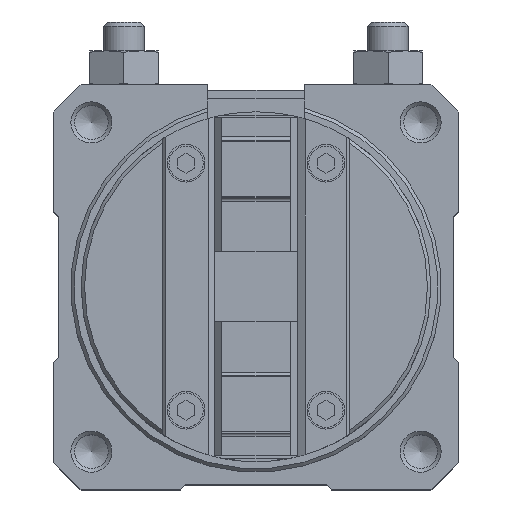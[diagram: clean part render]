
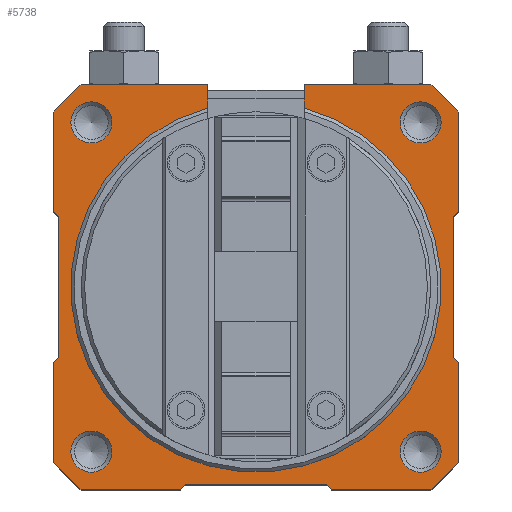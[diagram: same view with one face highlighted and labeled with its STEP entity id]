
A CAD part, top view. The second image highlights one B-rep face of the part: STEP entity #5738.
In plain terms, the highlighted planar face has unit normal (0, 0, 1).
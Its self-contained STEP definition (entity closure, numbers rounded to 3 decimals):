
#276=LINE('',#8458,#792);
#277=LINE('',#8460,#793);
#278=LINE('',#8464,#794);
#279=LINE('',#8466,#795);
#280=LINE('',#8468,#796);
#281=LINE('',#8470,#797);
#282=LINE('',#8472,#798);
#283=LINE('',#8476,#799);
#284=LINE('',#8478,#800);
#285=LINE('',#8480,#801);
#286=LINE('',#8482,#802);
#287=LINE('',#8484,#803);
#288=LINE('',#8488,#804);
#289=LINE('',#8490,#805);
#290=LINE('',#8492,#806);
#291=LINE('',#8494,#807);
#292=LINE('',#8496,#808);
#293=LINE('',#8500,#809);
#294=LINE('',#8502,#810);
#792=VECTOR('',#6751,1000.);
#793=VECTOR('',#6752,1000.);
#794=VECTOR('',#6755,1000.);
#795=VECTOR('',#6756,1000.);
#796=VECTOR('',#6757,1000.);
#797=VECTOR('',#6758,1000.);
#798=VECTOR('',#6759,1000.);
#799=VECTOR('',#6762,1000.);
#800=VECTOR('',#6763,1000.);
#801=VECTOR('',#6764,1000.);
#802=VECTOR('',#6765,1000.);
#803=VECTOR('',#6766,1000.);
#804=VECTOR('',#6769,1000.);
#805=VECTOR('',#6770,1000.);
#806=VECTOR('',#6771,1000.);
#807=VECTOR('',#6772,1000.);
#808=VECTOR('',#6773,1000.);
#809=VECTOR('',#6776,1000.);
#810=VECTOR('',#6777,1000.);
#1308=ORIENTED_EDGE('',*,*,#2918,.F.);
#1309=ORIENTED_EDGE('',*,*,#2919,.F.);
#1310=ORIENTED_EDGE('',*,*,#2920,.F.);
#1311=ORIENTED_EDGE('',*,*,#2921,.F.);
#1312=ORIENTED_EDGE('',*,*,#2922,.F.);
#1313=ORIENTED_EDGE('',*,*,#2923,.F.);
#1314=ORIENTED_EDGE('',*,*,#2924,.T.);
#1315=ORIENTED_EDGE('',*,*,#2925,.T.);
#1316=ORIENTED_EDGE('',*,*,#2926,.T.);
#1317=ORIENTED_EDGE('',*,*,#2927,.T.);
#1318=ORIENTED_EDGE('',*,*,#2928,.T.);
#1319=ORIENTED_EDGE('',*,*,#2929,.T.);
#1320=ORIENTED_EDGE('',*,*,#2930,.T.);
#1321=ORIENTED_EDGE('',*,*,#2931,.T.);
#1322=ORIENTED_EDGE('',*,*,#2932,.T.);
#1323=ORIENTED_EDGE('',*,*,#2933,.T.);
#1324=ORIENTED_EDGE('',*,*,#2934,.T.);
#1325=ORIENTED_EDGE('',*,*,#2935,.T.);
#1326=ORIENTED_EDGE('',*,*,#2936,.T.);
#1327=ORIENTED_EDGE('',*,*,#2937,.T.);
#1328=ORIENTED_EDGE('',*,*,#2938,.T.);
#1329=ORIENTED_EDGE('',*,*,#2939,.T.);
#1330=ORIENTED_EDGE('',*,*,#2940,.T.);
#1331=ORIENTED_EDGE('',*,*,#2941,.T.);
#1332=ORIENTED_EDGE('',*,*,#2942,.T.);
#1333=ORIENTED_EDGE('',*,*,#2943,.T.);
#1334=ORIENTED_EDGE('',*,*,#2944,.T.);
#1335=ORIENTED_EDGE('',*,*,#2945,.F.);
#2918=EDGE_CURVE('',#3723,#3723,#4301,.T.);
#2919=EDGE_CURVE('',#3724,#3724,#4302,.T.);
#2920=EDGE_CURVE('',#3725,#3725,#4303,.T.);
#2921=EDGE_CURVE('',#3726,#3726,#4304,.T.);
#2922=EDGE_CURVE('',#3727,#3728,#4305,.T.);
#2923=EDGE_CURVE('',#3729,#3727,#276,.T.);
#2924=EDGE_CURVE('',#3729,#3730,#277,.T.);
#2925=EDGE_CURVE('',#3730,#3731,#4306,.T.);
#2926=EDGE_CURVE('',#3731,#3732,#278,.T.);
#2927=EDGE_CURVE('',#3732,#3733,#279,.T.);
#2928=EDGE_CURVE('',#3733,#3734,#280,.T.);
#2929=EDGE_CURVE('',#3734,#3735,#281,.T.);
#2930=EDGE_CURVE('',#3735,#3736,#282,.T.);
#2931=EDGE_CURVE('',#3736,#3737,#4307,.T.);
#2932=EDGE_CURVE('',#3737,#3738,#283,.T.);
#2933=EDGE_CURVE('',#3738,#3739,#284,.T.);
#2934=EDGE_CURVE('',#3739,#3740,#285,.T.);
#2935=EDGE_CURVE('',#3740,#3741,#286,.T.);
#2936=EDGE_CURVE('',#3741,#3742,#287,.T.);
#2937=EDGE_CURVE('',#3742,#3743,#4308,.T.);
#2938=EDGE_CURVE('',#3743,#3744,#288,.T.);
#2939=EDGE_CURVE('',#3744,#3745,#289,.T.);
#2940=EDGE_CURVE('',#3745,#3746,#290,.T.);
#2941=EDGE_CURVE('',#3746,#3747,#291,.T.);
#2942=EDGE_CURVE('',#3747,#3748,#292,.T.);
#2943=EDGE_CURVE('',#3748,#3749,#4309,.T.);
#2944=EDGE_CURVE('',#3749,#3750,#293,.T.);
#2945=EDGE_CURVE('',#3728,#3750,#294,.T.);
#3723=VERTEX_POINT('',#8448);
#3724=VERTEX_POINT('',#8450);
#3725=VERTEX_POINT('',#8452);
#3726=VERTEX_POINT('',#8454);
#3727=VERTEX_POINT('',#8456);
#3728=VERTEX_POINT('',#8457);
#3729=VERTEX_POINT('',#8459);
#3730=VERTEX_POINT('',#8461);
#3731=VERTEX_POINT('',#8463);
#3732=VERTEX_POINT('',#8465);
#3733=VERTEX_POINT('',#8467);
#3734=VERTEX_POINT('',#8469);
#3735=VERTEX_POINT('',#8471);
#3736=VERTEX_POINT('',#8473);
#3737=VERTEX_POINT('',#8475);
#3738=VERTEX_POINT('',#8477);
#3739=VERTEX_POINT('',#8479);
#3740=VERTEX_POINT('',#8481);
#3741=VERTEX_POINT('',#8483);
#3742=VERTEX_POINT('',#8485);
#3743=VERTEX_POINT('',#8487);
#3744=VERTEX_POINT('',#8489);
#3745=VERTEX_POINT('',#8491);
#3746=VERTEX_POINT('',#8493);
#3747=VERTEX_POINT('',#8495);
#3748=VERTEX_POINT('',#8497);
#3749=VERTEX_POINT('',#8499);
#3750=VERTEX_POINT('',#8501);
#4301=CIRCLE('',#6143,3.);
#4302=CIRCLE('',#6144,3.);
#4303=CIRCLE('',#6145,3.);
#4304=CIRCLE('',#6146,3.);
#4305=CIRCLE('',#6147,27.);
#4306=CIRCLE('',#6148,39.);
#4307=CIRCLE('',#6149,39.);
#4308=CIRCLE('',#6150,39.);
#4309=CIRCLE('',#6151,39.);
#4514=EDGE_LOOP('',(#1308));
#4515=EDGE_LOOP('',(#1309));
#4516=EDGE_LOOP('',(#1310));
#4517=EDGE_LOOP('',(#1311));
#4518=EDGE_LOOP('',(#1312,#1313,#1314,#1315,#1316,#1317,#1318,#1319,#1320,
#1321,#1322,#1323,#1324,#1325,#1326,#1327,#1328,#1329,#1330,#1331,#1332,
#1333,#1334,#1335));
#5007=FACE_BOUND('',#4514,.T.);
#5008=FACE_BOUND('',#4515,.T.);
#5009=FACE_BOUND('',#4516,.T.);
#5010=FACE_BOUND('',#4517,.T.);
#5011=FACE_BOUND('',#4518,.T.);
#5516=PLANE('',#6142);
#5738=ADVANCED_FACE('',(#5007,#5008,#5009,#5010,#5011),#5516,.T.);
#6142=AXIS2_PLACEMENT_3D('',#8446,#6739,#6740);
#6143=AXIS2_PLACEMENT_3D('',#8447,#6741,#6742);
#6144=AXIS2_PLACEMENT_3D('',#8449,#6743,#6744);
#6145=AXIS2_PLACEMENT_3D('',#8451,#6745,#6746);
#6146=AXIS2_PLACEMENT_3D('',#8453,#6747,#6748);
#6147=AXIS2_PLACEMENT_3D('',#8455,#6749,#6750);
#6148=AXIS2_PLACEMENT_3D('',#8462,#6753,#6754);
#6149=AXIS2_PLACEMENT_3D('',#8474,#6760,#6761);
#6150=AXIS2_PLACEMENT_3D('',#8486,#6767,#6768);
#6151=AXIS2_PLACEMENT_3D('',#8498,#6774,#6775);
#6739=DIRECTION('',(0.,0.,1.));
#6740=DIRECTION('',(1.,0.,0.));
#6741=DIRECTION('',(0.,0.,1.));
#6742=DIRECTION('',(1.,0.,0.));
#6743=DIRECTION('',(0.,0.,1.));
#6744=DIRECTION('',(1.,0.,0.));
#6745=DIRECTION('',(0.,0.,1.));
#6746=DIRECTION('',(1.,0.,0.));
#6747=DIRECTION('',(0.,0.,1.));
#6748=DIRECTION('',(1.,0.,0.));
#6749=DIRECTION('',(0.,0.,1.));
#6750=DIRECTION('',(1.,0.,0.));
#6751=DIRECTION('',(0.,-1.,0.));
#6752=DIRECTION('',(-1.,0.,0.));
#6753=DIRECTION('',(0.,0.,1.));
#6754=DIRECTION('',(1.,0.,0.));
#6755=DIRECTION('',(0.,-1.,0.));
#6756=DIRECTION('',(0.707,-0.707,0.));
#6757=DIRECTION('',(0.,-1.,0.));
#6758=DIRECTION('',(-0.707,-0.707,0.));
#6759=DIRECTION('',(0.,-1.,0.));
#6760=DIRECTION('',(0.,0.,1.));
#6761=DIRECTION('',(1.,0.,0.));
#6762=DIRECTION('',(1.,0.,0.));
#6763=DIRECTION('',(0.707,0.707,0.));
#6764=DIRECTION('',(1.,0.,0.));
#6765=DIRECTION('',(0.707,-0.707,0.));
#6766=DIRECTION('',(1.,0.,0.));
#6767=DIRECTION('',(0.,0.,1.));
#6768=DIRECTION('',(1.,0.,0.));
#6769=DIRECTION('',(0.,1.,0.));
#6770=DIRECTION('',(-0.707,0.707,0.));
#6771=DIRECTION('',(0.,1.,0.));
#6772=DIRECTION('',(0.707,0.707,0.));
#6773=DIRECTION('',(0.,1.,0.));
#6774=DIRECTION('',(0.,0.,1.));
#6775=DIRECTION('',(1.,0.,0.));
#6776=DIRECTION('',(-1.,0.,0.));
#6777=DIRECTION('',(0.,1.,0.));
#8446=CARTESIAN_POINT('',(0.,0.,111.));
#8447=CARTESIAN_POINT('',(-24.,-24.,111.));
#8448=CARTESIAN_POINT('',(-21.,-24.,111.));
#8449=CARTESIAN_POINT('',(24.,-24.,111.));
#8450=CARTESIAN_POINT('',(27.,-24.,111.));
#8451=CARTESIAN_POINT('',(-24.,24.,111.));
#8452=CARTESIAN_POINT('',(-21.,24.,111.));
#8453=CARTESIAN_POINT('',(24.,24.,111.));
#8454=CARTESIAN_POINT('',(27.,24.,111.));
#8455=CARTESIAN_POINT('',(0.,0.,111.));
#8456=CARTESIAN_POINT('',(-7.,26.077,111.));
#8457=CARTESIAN_POINT('',(7.,26.077,111.));
#8458=CARTESIAN_POINT('',(-7.,29.5,111.));
#8459=CARTESIAN_POINT('',(-7.,29.5,111.));
#8460=CARTESIAN_POINT('',(25.51,29.5,111.));
#8461=CARTESIAN_POINT('',(-25.51,29.5,111.));
#8462=CARTESIAN_POINT('',(0.,0.,111.));
#8463=CARTESIAN_POINT('',(-29.5,25.51,111.));
#8464=CARTESIAN_POINT('',(-29.5,25.51,111.));
#8465=CARTESIAN_POINT('',(-29.5,11.,111.));
#8466=CARTESIAN_POINT('',(-29.5,11.,111.));
#8467=CARTESIAN_POINT('',(-28.75,10.25,111.));
#8468=CARTESIAN_POINT('',(-28.75,10.25,111.));
#8469=CARTESIAN_POINT('',(-28.75,-10.25,111.));
#8470=CARTESIAN_POINT('',(-28.75,-10.25,111.));
#8471=CARTESIAN_POINT('',(-29.5,-11.,111.));
#8472=CARTESIAN_POINT('',(-29.5,-11.,111.));
#8473=CARTESIAN_POINT('',(-29.5,-25.51,111.));
#8474=CARTESIAN_POINT('',(0.,0.,111.));
#8475=CARTESIAN_POINT('',(-25.51,-29.5,111.));
#8476=CARTESIAN_POINT('',(-25.51,-29.5,111.));
#8477=CARTESIAN_POINT('',(-11.,-29.5,111.));
#8478=CARTESIAN_POINT('',(-11.,-29.5,111.));
#8479=CARTESIAN_POINT('',(-10.25,-28.75,111.));
#8480=CARTESIAN_POINT('',(-10.25,-28.75,111.));
#8481=CARTESIAN_POINT('',(10.25,-28.75,111.));
#8482=CARTESIAN_POINT('',(10.25,-28.75,111.));
#8483=CARTESIAN_POINT('',(11.,-29.5,111.));
#8484=CARTESIAN_POINT('',(11.,-29.5,111.));
#8485=CARTESIAN_POINT('',(25.51,-29.5,111.));
#8486=CARTESIAN_POINT('',(0.,0.,111.));
#8487=CARTESIAN_POINT('',(29.5,-25.51,111.));
#8488=CARTESIAN_POINT('',(29.5,-25.51,111.));
#8489=CARTESIAN_POINT('',(29.5,-11.,111.));
#8490=CARTESIAN_POINT('',(29.5,-11.,111.));
#8491=CARTESIAN_POINT('',(28.75,-10.25,111.));
#8492=CARTESIAN_POINT('',(28.75,-10.25,111.));
#8493=CARTESIAN_POINT('',(28.75,10.25,111.));
#8494=CARTESIAN_POINT('',(28.75,10.25,111.));
#8495=CARTESIAN_POINT('',(29.5,11.,111.));
#8496=CARTESIAN_POINT('',(29.5,11.,111.));
#8497=CARTESIAN_POINT('',(29.5,25.51,111.));
#8498=CARTESIAN_POINT('',(0.,0.,111.));
#8499=CARTESIAN_POINT('',(25.51,29.5,111.));
#8500=CARTESIAN_POINT('',(25.51,29.5,111.));
#8501=CARTESIAN_POINT('',(7.,29.5,111.));
#8502=CARTESIAN_POINT('',(7.,27.5,111.));
